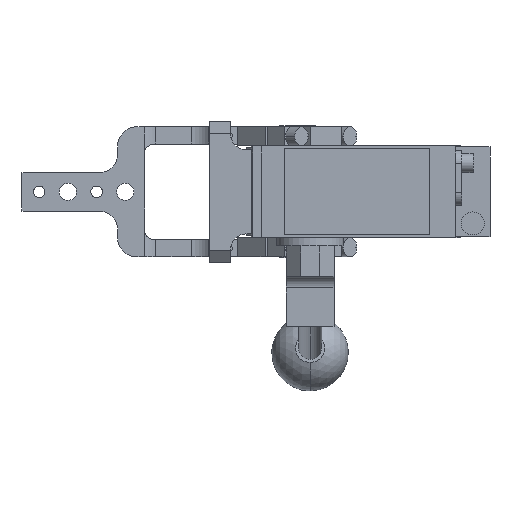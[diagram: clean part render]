
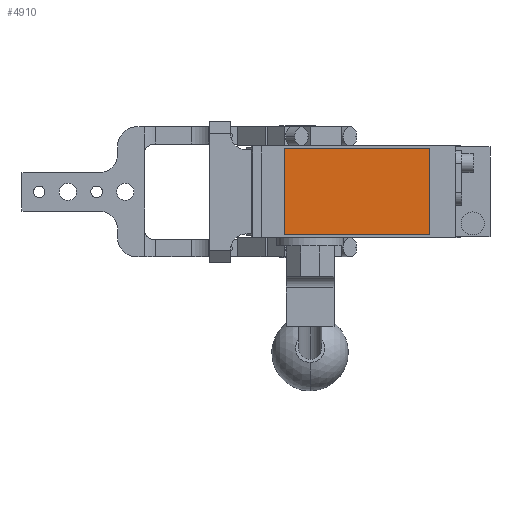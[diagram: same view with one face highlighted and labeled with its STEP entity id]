
A CAD part, front view. The second image highlights one B-rep face of the part: STEP entity #4910.
In plain terms, the highlighted planar face has unit normal (0, -1, 0).
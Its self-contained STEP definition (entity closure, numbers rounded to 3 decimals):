
#15 = DIRECTION ( 'NONE',  ( 1., 0., 0. ) ) ;
#1063 = ORIENTED_EDGE ( 'NONE', *, *, #1094, .T. ) ;
#1094 = EDGE_CURVE ( 'NONE', #6437, #12689, #15690, .T. ) ;
#1979 = DIRECTION ( 'NONE',  ( 0., 0., -1. ) ) ;
#2063 = CARTESIAN_POINT ( 'NONE',  ( -7., -280.5, 22.5 ) ) ;
#2355 = CARTESIAN_POINT ( 'NONE',  ( 0., -280.5, 0. ) ) ;
#2638 = VECTOR ( 'NONE', #11894, 1000. ) ;
#2999 = ORIENTED_EDGE ( 'NONE', *, *, #6492, .T. ) ;
#3093 = CARTESIAN_POINT ( 'NONE',  ( -7., -280.5, -22.5 ) ) ;
#3417 = CARTESIAN_POINT ( 'NONE',  ( -7., -280.5, 22.5 ) ) ;
#3481 = PLANE ( 'NONE',  #6269 ) ;
#4017 = ORIENTED_EDGE ( 'NONE', *, *, #13067, .T. ) ;
#4910 = ADVANCED_FACE ( 'NONE', ( #12258 ), #3481, .T. ) ;
#5063 = VERTEX_POINT ( 'NONE', #11269 ) ;
#5071 = CARTESIAN_POINT ( 'NONE',  ( -7., -280.5, 22.5 ) ) ;
#6269 = AXIS2_PLACEMENT_3D ( 'NONE', #2355, #10949, #9803 ) ;
#6437 = VERTEX_POINT ( 'NONE', #9523 ) ;
#6492 = EDGE_CURVE ( 'NONE', #11078, #5063, #11138, .T. ) ;
#6968 = CARTESIAN_POINT ( 'NONE',  ( 69., -280.5, 22.5 ) ) ;
#7358 = EDGE_CURVE ( 'NONE', #5063, #6437, #14172, .T. ) ;
#8225 = DIRECTION ( 'NONE',  ( -1., 0., 0. ) ) ;
#8359 = ORIENTED_EDGE ( 'NONE', *, *, #7358, .T. ) ;
#8487 = VECTOR ( 'NONE', #15, 1000. ) ;
#8543 = VECTOR ( 'NONE', #8225, 1000. ) ;
#9523 = CARTESIAN_POINT ( 'NONE',  ( 69., -280.5, 22.5 ) ) ;
#9803 = DIRECTION ( 'NONE',  ( 0., 0., -1. ) ) ;
#10029 = EDGE_LOOP ( 'NONE', ( #4017, #2999, #8359, #1063 ) ) ;
#10949 = DIRECTION ( 'NONE',  ( 0., -1., 0. ) ) ;
#11078 = VERTEX_POINT ( 'NONE', #3093 ) ;
#11138 = LINE ( 'NONE', #13585, #8487 ) ;
#11269 = CARTESIAN_POINT ( 'NONE',  ( 69., -280.5, -22.5 ) ) ;
#11894 = DIRECTION ( 'NONE',  ( 0., 0., 1. ) ) ;
#12258 = FACE_OUTER_BOUND ( 'NONE', #10029, .T. ) ;
#12689 = VERTEX_POINT ( 'NONE', #5071 ) ;
#12951 = LINE ( 'NONE', #2063, #15058 ) ;
#13067 = EDGE_CURVE ( 'NONE', #12689, #11078, #12951, .T. ) ;
#13585 = CARTESIAN_POINT ( 'NONE',  ( -7., -280.5, -22.5 ) ) ;
#14172 = LINE ( 'NONE', #6968, #2638 ) ;
#15058 = VECTOR ( 'NONE', #1979, 1000. ) ;
#15690 = LINE ( 'NONE', #3417, #8543 ) ;
